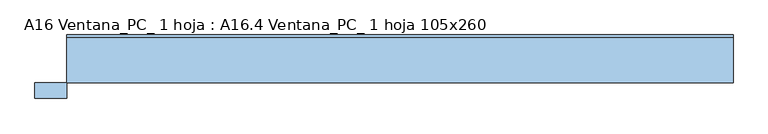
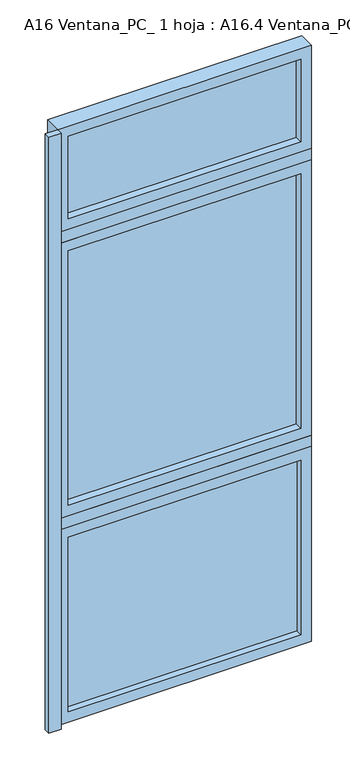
"""IFC4 building model written with IfcOpenShell, lengths in millimetres: window geometry, A16 Ventana_PC_ 1 hoja : A16.4 Ventana_PC_ 1 hoja 105x260."""

from ifc_helpers import new_model, si_unit, frame, origin, origin_with_axes, place, context, project, spatial, polyline, outline, extrude, source, transform, mapped, element, save


def a16_ventana_pc_1_hoja_a16_4_ventana_pc_1_hoja_105x260_403ed5f2(model_context):
    return source(origin(), model_context, "Body", "SweptSolid", [
        extrude(outline(polyline([(480.0, 39.8038213), (-480.0, 39.8038213), (-480.0, 55.8038213), (480.0, 55.8038213), (480.0, 39.8038213)])), frame((0.0, 0.0, 45.0), z_axis=(0.0, 0.0, 1.0), x_axis=(1.0, 0.0, 0.0)), (0.0, 0.0, 1.0), 760.0),
        extrude(outline(polyline([(480.0, 44.8038213), (-480.0, 44.8038213), (-480.0, 50.8038213), (480.0, 50.8038213), (480.0, 44.8038213)])), frame((0.0, 0.0, 2195.0), z_axis=(0.0, 0.0, 1.0), x_axis=(1.0, 0.0, 0.0)), (0.0, 0.0, 1.0), 360.0),
        extrude(outline(polyline([(480.0, 44.8038213), (-480.0, 44.8038213), (-480.0, 50.8038213), (480.0, 50.8038213), (480.0, 44.8038213)])), frame((0.0, 0.0, 945.0), z_axis=(0.0, 0.0, 1.0), x_axis=(1.0, 0.0, 0.0)), (0.0, 0.0, 1.0), 1110.0),
        extrude(outline(polyline([(850.0, -525.0), (0.0, -525.0), (0.0, 525.0), (850.0, 525.0), (850.0, -525.0)]), holes=[polyline([(805.0, -480.0), (805.0, 480.0), (45.0, 480.0), (45.0, -480.0), (805.0, -480.0)])]), frame((0.0, 12.5, 0.0), z_axis=(0.0, 1.0, 0.0), x_axis=(0.0, 0.0, 1.0)), (0.0, 0.0, 1.0), 70.6076425),
        extrude(outline(polyline([(2600.0, -525.0), (2150.0, -525.0), (2150.0, 525.0), (2600.0, 525.0), (2600.0, -525.0)]), holes=[polyline([(2555.0, -480.0), (2555.0, 480.0), (2195.0, 480.0), (2195.0, -480.0), (2555.0, -480.0)])]), frame((0.0, 12.5, 0.0), z_axis=(0.0, 1.0, 0.0), x_axis=(0.0, 0.0, 1.0)), (0.0, 0.0, 1.0), 70.6076425),
        extrude(outline(polyline([(2100.0, -525.0), (900.0, -525.0), (900.0, 525.0), (2100.0, 525.0), (2100.0, -525.0)]), holes=[polyline([(2055.0, -480.0), (2055.0, 480.0), (945.0, 480.0), (945.0, -480.0), (2055.0, -480.0)])]), frame((0.0, 12.5, 0.0), z_axis=(0.0, 1.0, 0.0), x_axis=(0.0, 0.0, 1.0)), (0.0, 0.0, 1.0), 70.6076425),
        extrude(outline(polyline([(525.0, 12.5), (-525.0, 12.5), (-525.0, 87.5), (525.0, 87.5), (525.0, 12.5)])), frame((0.0, 0.0, 2100.0), z_axis=(0.0, 0.0, 1.0), x_axis=(1.0, 0.0, 0.0)), (0.0, 0.0, 1.0), 50.0),
        extrude(outline(polyline([(525.0, 12.5), (-525.0, 12.5), (-525.0, 87.5), (525.0, 87.5), (525.0, 12.5)])), frame((0.0, 0.0, 850.0), z_axis=(0.0, 0.0, 1.0), x_axis=(1.0, 0.0, 0.0)), (0.0, 0.0, 1.0), 50.0),
        extrude(outline(polyline([(-525.0, -12.5), (-575.0, -12.5), (-575.0, 12.5), (-525.0, 12.5), (-525.0, -12.5)])), origin_with_axes(), (0.0, 0.0, 1.0), 2600.0),
    ])


if __name__ == "__main__":
    model = new_model("IFC4")
    model_context = context("Model", 3, world=origin())
    ifc_project = project(units=[si_unit("LENGTHUNIT", "METRE", prefix="MILLI")], contexts=[model_context])
    site = spatial("IfcSite", under=ifc_project)
    building = spatial("IfcBuilding", under=site)
    placement = place(None, origin())
    a16_ventana_pc_1_hoja_a16_4_ventana_pc_1_hoja_105x260_shape = a16_ventana_pc_1_hoja_a16_4_ventana_pc_1_hoja_105x260_403ed5f2(model_context)
    element("IfcWindow", 1, ObjectType="A16 Ventana_PC_ 1 hoja : A16.4 Ventana_PC_ 1 hoja 105x260", at=placement, inside=building, context=model_context, shape_type="MappedRepresentation", body=[
        mapped(a16_ventana_pc_1_hoja_a16_4_ventana_pc_1_hoja_105x260_shape, transform((0.0, 0.0, 0.0), x_axis=(1.0, 0.0, 0.0), y_axis=(0.0, 1.0, 0.0), z_axis=(0.0, 0.0, 1.0))),
    ])
    save(model, "model.ifc")
